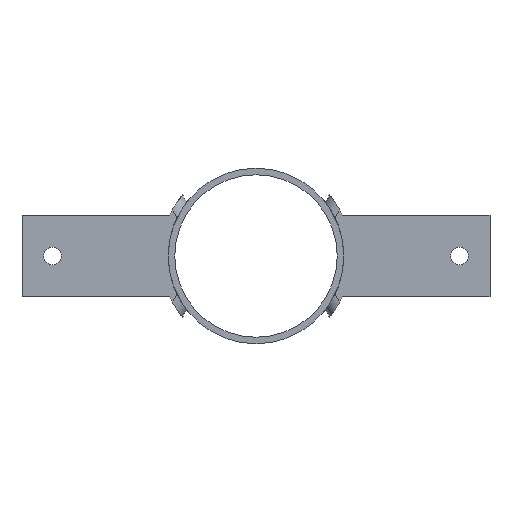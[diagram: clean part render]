
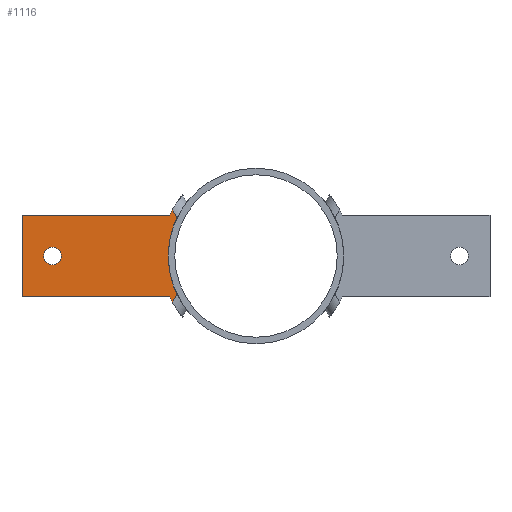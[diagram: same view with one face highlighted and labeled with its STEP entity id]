
A CAD part, front view. The second image highlights one B-rep face of the part: STEP entity #1116.
In plain terms, the highlighted planar face has unit normal (0, -1, 0).
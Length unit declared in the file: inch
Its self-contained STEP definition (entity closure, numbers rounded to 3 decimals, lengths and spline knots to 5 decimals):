
#45=FACE_BOUND('',#197,.T.);
#57=PLANE('',#1194);
#90=CIRCLE('',#1190,4.6925);
#92=CIRCLE('',#1195,4.3125);
#93=CIRCLE('',#1196,4.3125);
#94=CIRCLE('',#1197,4.6925);
#95=CIRCLE('',#1198,0.4375);
#140=FACE_OUTER_BOUND('',#196,.T.);
#196=EDGE_LOOP('',(#740,#741,#742,#743,#744,#745,#746,#747,#748));
#197=EDGE_LOOP('',(#749));
#265=LINE('',#1731,#358);
#266=LINE('',#1738,#359);
#267=LINE('',#1742,#360);
#268=LINE('',#1744,#361);
#269=LINE('',#1745,#362);
#358=VECTOR('',#1323,0.3937);
#359=VECTOR('',#1330,0.3937);
#360=VECTOR('',#1333,0.3937);
#361=VECTOR('',#1334,0.3937);
#362=VECTOR('',#1335,0.3937);
#466=VERTEX_POINT('',#1679);
#467=VERTEX_POINT('',#1698);
#470=VERTEX_POINT('',#1708);
#471=VERTEX_POINT('',#1733);
#472=VERTEX_POINT('',#1735);
#473=VERTEX_POINT('',#1737);
#474=VERTEX_POINT('',#1739);
#475=VERTEX_POINT('',#1741);
#476=VERTEX_POINT('',#1743);
#477=VERTEX_POINT('',#1746);
#573=EDGE_CURVE('',#466,#467,#90,.T.);
#579=EDGE_CURVE('',#470,#466,#265,.T.);
#580=EDGE_CURVE('',#471,#470,#92,.T.);
#581=EDGE_CURVE('',#472,#471,#93,.T.);
#582=EDGE_CURVE('',#473,#472,#266,.T.);
#583=EDGE_CURVE('',#474,#473,#94,.T.);
#584=EDGE_CURVE('',#474,#475,#267,.T.);
#585=EDGE_CURVE('',#475,#476,#268,.T.);
#586=EDGE_CURVE('',#476,#467,#269,.T.);
#587=EDGE_CURVE('',#477,#477,#95,.T.);
#740=ORIENTED_EDGE('',*,*,#579,.F.);
#741=ORIENTED_EDGE('',*,*,#580,.F.);
#742=ORIENTED_EDGE('',*,*,#581,.F.);
#743=ORIENTED_EDGE('',*,*,#582,.F.);
#744=ORIENTED_EDGE('',*,*,#583,.F.);
#745=ORIENTED_EDGE('',*,*,#584,.T.);
#746=ORIENTED_EDGE('',*,*,#585,.T.);
#747=ORIENTED_EDGE('',*,*,#586,.T.);
#748=ORIENTED_EDGE('',*,*,#573,.F.);
#749=ORIENTED_EDGE('',*,*,#587,.T.);
#1116=ADVANCED_FACE('',(#140,#45),#57,.F.);
#1190=AXIS2_PLACEMENT_3D('',#1699,#1312,#1313);
#1194=AXIS2_PLACEMENT_3D('',#1732,#1324,#1325);
#1195=AXIS2_PLACEMENT_3D('',#1734,#1326,#1327);
#1196=AXIS2_PLACEMENT_3D('',#1736,#1328,#1329);
#1197=AXIS2_PLACEMENT_3D('',#1740,#1331,#1332);
#1198=AXIS2_PLACEMENT_3D('',#1747,#1336,#1337);
#1312=DIRECTION('center_axis',(0.,1.,0.));
#1313=DIRECTION('ref_axis',(-0.769,0.,0.639));
#1323=DIRECTION('',(-0.5,0.,-0.866));
#1324=DIRECTION('center_axis',(0.,1.,0.));
#1325=DIRECTION('ref_axis',(0.,0.,1.));
#1326=DIRECTION('center_axis',(0.,-1.,0.));
#1327=DIRECTION('ref_axis',(1.,0.,0.));
#1328=DIRECTION('center_axis',(0.,-1.,0.));
#1329=DIRECTION('ref_axis',(1.,0.,0.));
#1330=DIRECTION('',(0.5,0.,-0.866));
#1331=DIRECTION('center_axis',(0.,1.,0.));
#1332=DIRECTION('ref_axis',(-0.769,0.,0.639));
#1333=DIRECTION('',(-1.,0.,0.));
#1334=DIRECTION('',(0.,0.,-1.));
#1335=DIRECTION('',(1.,0.,0.));
#1336=DIRECTION('center_axis',(0.,1.,0.));
#1337=DIRECTION('ref_axis',(-1.,0.,0.));
#1679=CARTESIAN_POINT('',(-4.10869,2.,-2.26677));
#1698=CARTESIAN_POINT('',(-4.24494,2.,-2.));
#1699=CARTESIAN_POINT('Origin',(0.,2.,0.));
#1708=CARTESIAN_POINT('',(-3.88308,2.,-1.876));
#1731=CARTESIAN_POINT('',(-2.80865,2.,-0.01504));
#1732=CARTESIAN_POINT('Origin',(0.,2.,1.81));
#1733=CARTESIAN_POINT('',(-4.3125,2.,0.));
#1734=CARTESIAN_POINT('Origin',(0.,2.,0.));
#1735=CARTESIAN_POINT('',(-3.88308,2.,1.876));
#1736=CARTESIAN_POINT('Origin',(0.,2.,0.));
#1737=CARTESIAN_POINT('',(-4.10869,2.,2.26677));
#1738=CARTESIAN_POINT('',(-3.49053,2.,1.19608));
#1739=CARTESIAN_POINT('',(-4.24494,2.,2.));
#1740=CARTESIAN_POINT('Origin',(0.,2.,0.));
#1741=CARTESIAN_POINT('',(-11.5,2.,2.));
#1742=CARTESIAN_POINT('',(11.5,2.,2.));
#1743=CARTESIAN_POINT('',(-11.5,2.,-2.));
#1744=CARTESIAN_POINT('',(-11.5,2.,2.));
#1745=CARTESIAN_POINT('',(-11.5,2.,-2.));
#1746=CARTESIAN_POINT('',(-9.5625,2.,0.));
#1747=CARTESIAN_POINT('Origin',(-10.,2.,0.));
